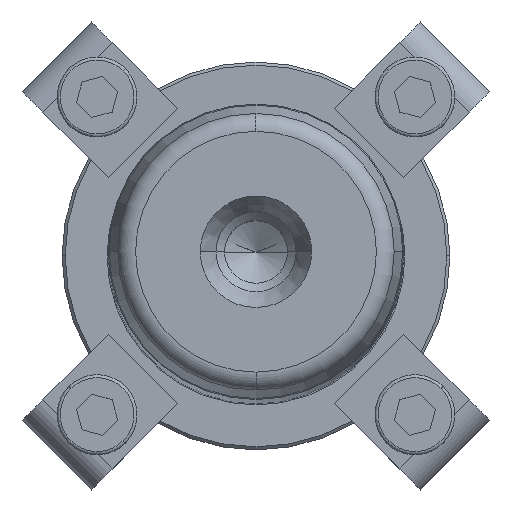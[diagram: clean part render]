
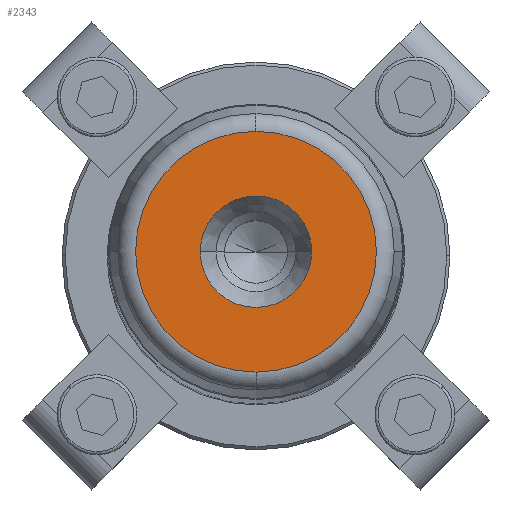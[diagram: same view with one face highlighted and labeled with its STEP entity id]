
A CAD part, top view. The second image highlights one B-rep face of the part: STEP entity #2343.
In plain terms, the highlighted planar face has unit normal (0, 0, 1).
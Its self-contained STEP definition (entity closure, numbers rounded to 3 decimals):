
#431=CARTESIAN_POINT('',(9.05,0.,400.0));
#432=VERTEX_POINT('',#431);
#439=CARTESIAN_POINT('',(-9.05,0.,400.0));
#440=VERTEX_POINT('',#439);
#441=CARTESIAN_POINT('',(0.0,0.,400.0));
#442=DIRECTION('',(0.0,0.0,1.0));
#443=DIRECTION('',(1.0,0.0,0.0));
#444=AXIS2_PLACEMENT_3D('',#441,#442,#443);
#445=CIRCLE('',#444,9.05);
#446=EDGE_CURVE('',#432,#440,#445,.T.);
#463=CARTESIAN_POINT('',(0.0,-19.554,400.));
#464=VERTEX_POINT('',#463);
#474=CARTESIAN_POINT('',(0.,19.554,400.));
#475=VERTEX_POINT('',#474);
#476=CARTESIAN_POINT('',(0.0,0.,400.));
#477=DIRECTION('',(0.0,0.0,1.0));
#478=DIRECTION('',(1.0,0.0,0.0));
#479=AXIS2_PLACEMENT_3D('',#476,#477,#478);
#480=CIRCLE('',#479,19.554);
#481=EDGE_CURVE('',#475,#464,#480,.T.);
#2304=CARTESIAN_POINT('',(19.554,0.,400.));
#2305=VERTEX_POINT('',#2304);
#2306=CARTESIAN_POINT('',(0.0,0.,400.));
#2307=DIRECTION('',(0.0,0.0,1.0));
#2308=DIRECTION('',(1.0,0.0,0.0));
#2309=AXIS2_PLACEMENT_3D('',#2306,#2307,#2308);
#2310=CIRCLE('',#2309,19.554);
#2311=EDGE_CURVE('',#2305,#475,#2310,.T.);
#2313=CARTESIAN_POINT('',(0.0,0.,400.));
#2314=DIRECTION('',(0.0,0.0,1.0));
#2315=DIRECTION('',(1.0,0.0,0.0));
#2316=AXIS2_PLACEMENT_3D('',#2313,#2314,#2315);
#2317=CIRCLE('',#2316,19.554);
#2318=EDGE_CURVE('',#464,#2305,#2317,.T.);
#2323=CARTESIAN_POINT('',(14.302,0.,400.0));
#2324=DIRECTION('',(0.0,0.0,1.0));
#2325=DIRECTION('',(0.0,-1.0,0.0));
#2326=AXIS2_PLACEMENT_3D('',#2323,#2324,#2325);
#2327=PLANE('',#2326);
#2328=ORIENTED_EDGE('',*,*,#2311,.T.);
#2329=ORIENTED_EDGE('',*,*,#481,.T.);
#2330=ORIENTED_EDGE('',*,*,#2318,.T.);
#2331=EDGE_LOOP('',(#2328,#2329,#2330));
#2332=FACE_OUTER_BOUND('',#2331,.T.);
#2333=ORIENTED_EDGE('',*,*,#446,.F.);
#2334=CARTESIAN_POINT('',(0.0,0.,400.0));
#2335=DIRECTION('',(0.0,0.0,1.0));
#2336=DIRECTION('',(1.0,0.0,0.0));
#2337=AXIS2_PLACEMENT_3D('',#2334,#2335,#2336);
#2338=CIRCLE('',#2337,9.05);
#2339=EDGE_CURVE('',#440,#432,#2338,.T.);
#2340=ORIENTED_EDGE('',*,*,#2339,.F.);
#2341=EDGE_LOOP('',(#2333,#2340));
#2342=FACE_BOUND('',#2341,.T.);
#2343=ADVANCED_FACE('',(#2332,#2342),#2327,.T.);
